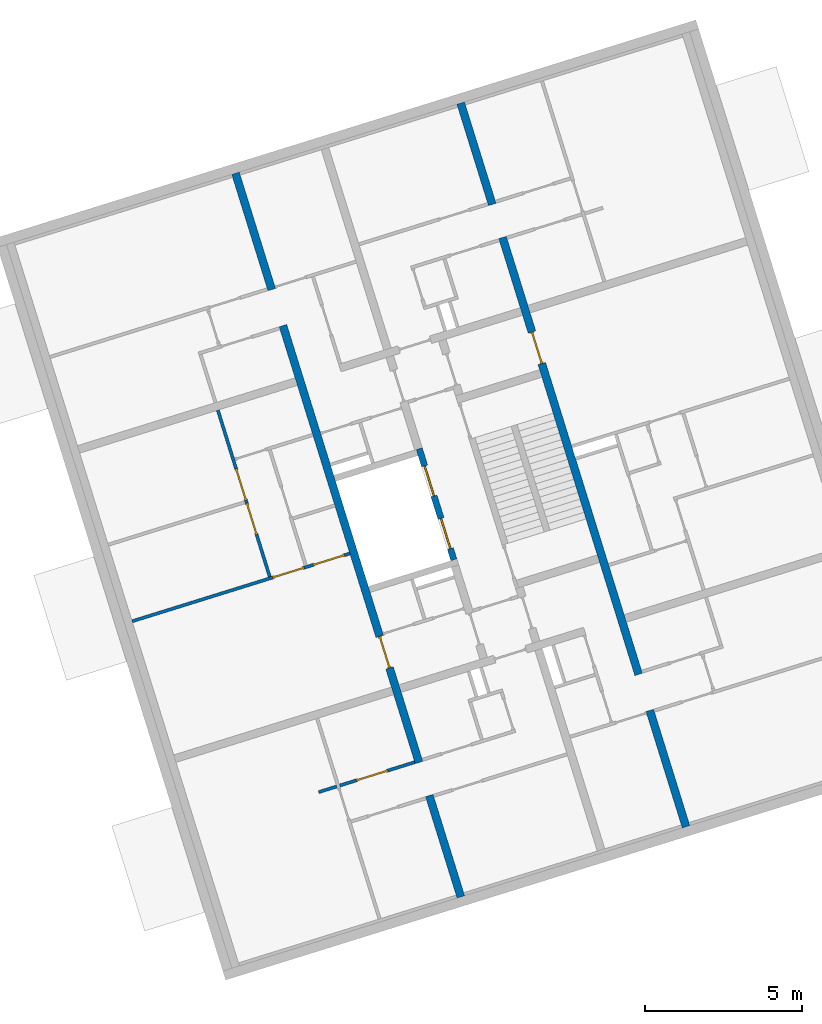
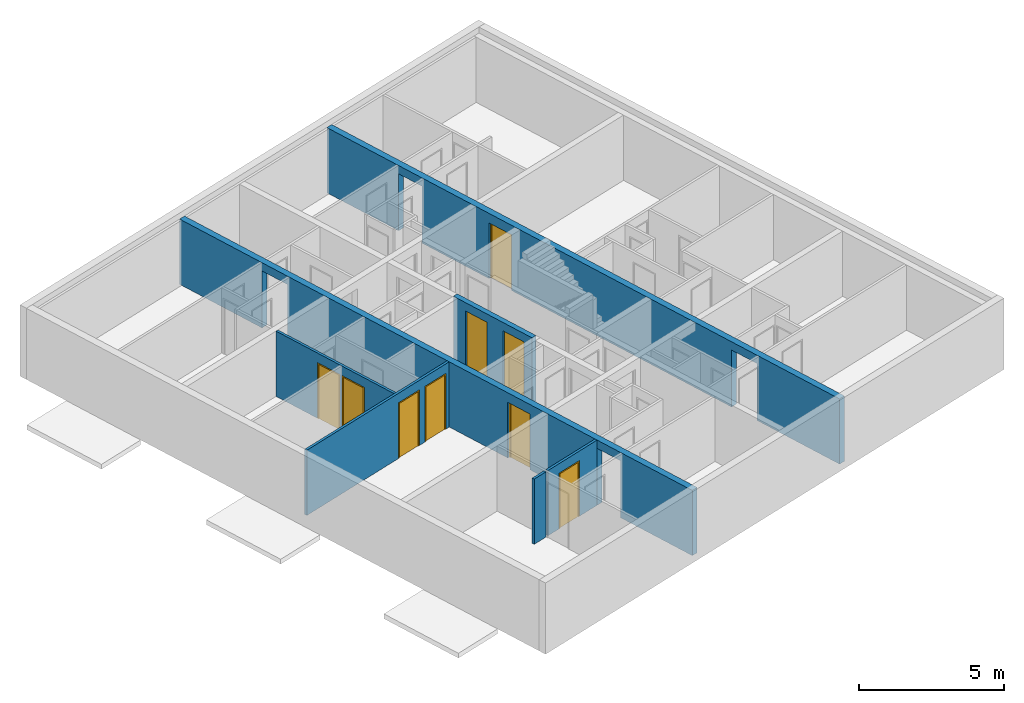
# One storey, part 7 of 8: 9 doors, 6 walls, 14 openings.
"""IFC4 building model written with IfcOpenShell, lengths in metres."""

from ifc_helpers import new_model, entity, si_unit, converted_unit, direction, frame, origin, place, context, subcontext, project, spatial, indexed_curve, outline, extrude, polygons, source, transform, mapped, material, constituent, constituent_set, type_object, type_shapes, element, fill, save


model = new_model("IFC4")

# Units and contexts
model_context = context("Model", 3, precision=1e-05, world=origin(), true_north=direction((6.12323399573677e-17, 1.0)))
body_context = subcontext(model_context, "Body", "Model", "MODEL_VIEW")
ifc_project = project(units=[si_unit("LENGTHUNIT", "METRE"), si_unit("AREAUNIT", "SQUARE_METRE"), si_unit("VOLUMEUNIT", "CUBIC_METRE"), converted_unit("PLANEANGLEUNIT", "DEGREE", entity("IfcPlaneAngleMeasure", 0.0174532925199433), si_unit("PLANEANGLEUNIT", "RADIAN"), dimensions=[0, 0, 0, 0, 0, 0, 0])], contexts=[model_context])

# Site, building, storey
site_placement = place(None, frame((13.1347999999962, 11.9886000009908, 0.0), z_axis=(0.0, 0.0, 1.0), x_axis=(0.954770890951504, 0.297342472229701, 0.0)))
site = spatial("IfcSite", under=ifc_project, at=site_placement, Name="Schiehaven", CompositionType="ELEMENT")
building_placement = place(site_placement, origin())
building = spatial("IfcBuilding", under=site, at=building_placement, Name="VORM huis", CompositionType="ELEMENT")
storey_placement = place(building_placement, frame((0.0, 0.0, 12.9)))
storey = spatial("IfcBuildingStorey", under=building, at=storey_placement, Name="04 vierde verdieping", CompositionType="ELEMENT", Elevation=12.9)

# Wall, openings, door
ifc_material_1 = material(Name="beton_gewapend_ihw", Category="Miscellaneous")
wall_type_1 = type_object("IfcWallType", Name="Basic Wall:28_WA_skelet_wand 250mm_gen", PredefinedType="STANDARD")
wall_1_placement = place(storey_placement, frame((12.5000000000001, 5.0, 0.0), z_axis=(0.0, 0.0, 1.0), x_axis=(0.0, 1.0, 0.0)))
wall_1 = element("IfcWall", 1, at=wall_1_placement, inside=storey, type_object=wall_type_1, material=ifc_material_1, Name="Constructieve wand", ObjectType="Wand", PredefinedType="NOTDEFINED", context=body_context, shape_type="Tessellation", body=[
    polygons([(8.67499999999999, -0.125, 2.34999999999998), (8.67499999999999, -0.125, 0.0), (19.0250000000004, -0.124999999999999, 0.0), (19.0250000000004, -0.124999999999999, 2.4), (20.2250000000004, -0.124999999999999, 2.4), (20.2250000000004, -0.124999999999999, 0.0), (24.1, -0.125, 0.0), (24.1, -0.125, 2.75), (7.025, -0.124999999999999, 2.75), (6.775, -0.125, 2.75), (0.0, -0.125, 2.75), (1.08286712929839e-15, -0.125, 0.0), (3.37500000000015, -0.124999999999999, 0.0), (3.37500000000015, -0.124999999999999, 2.4), (4.47500000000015, -0.125, 2.4), (4.47500000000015, -0.125, 0.0), (6.775, -0.125, 0.0), (7.025, -0.124999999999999, 0.0), (7.62499999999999, -0.124999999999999, 0.0), (7.62499999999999, -0.124999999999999, 2.34999999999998), (19.0250000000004, 0.125, 0.0), (8.67499999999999, 0.125, 0.0), (8.67499999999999, 0.125, 2.34999999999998), (7.62499999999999, 0.125, 2.34999999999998), (7.62499999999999, 0.125, 0.0), (4.47500000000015, 0.124999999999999, 0.0), (4.47500000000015, 0.124999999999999, 2.4), (3.37500000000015, 0.125000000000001, 2.4), (3.37500000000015, 0.125000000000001, 0.0), (1.08286712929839e-15, 0.125, 0.0), (0.0, 0.125, 2.75), (24.1, 0.124999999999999, 2.75), (24.1, 0.124999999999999, 0.0), (20.2250000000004, 0.125, 0.0), (20.2250000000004, 0.125, 2.4), (19.0250000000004, 0.125, 2.4)], [[[1, 2, 3, 4, 5, 6, 7, 8, 9, 10, 11, 12, 13, 14, 15, 16, 17, 18, 19, 20]], [[21, 22, 23, 24, 25, 26, 27, 28, 29, 30, 31, 32, 33, 34, 35, 36]], [[12, 30, 29, 13]], [[8, 7, 33, 32]], [[11, 10, 9, 8, 32, 31]], [[12, 11, 31, 30]], [[14, 28, 27, 15]], [[28, 14, 13, 29]], [[15, 27, 26, 16]], [[4, 36, 35, 5]], [[36, 4, 3, 21]], [[5, 35, 34, 6]], [[25, 24, 20, 19]], [[23, 22, 2, 1]], [[24, 23, 1, 20]], [[19, 18, 17, 16, 26, 25]], [[3, 2, 22, 21]], [[33, 7, 6, 34]]], closed=True),
])
opening_1_placement = place(wall_1_placement, origin())
element("IfcOpeningElement", 2, at=opening_1_placement, cuts=wall_1, Name="Constructieve wand", PredefinedType="OPENING", context=body_context, shape_type="SweptSolid", body=[
    extrude(outline(indexed_curve([(-1.2, -0.550000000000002), (1.2, -0.550000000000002), (1.2, 0.550000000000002), (-1.2, 0.550000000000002), (-1.2, -0.550000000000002)], self_intersect=False)), frame((3.92500000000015, -0.125, 1.2), z_axis=(0.0, 1.0, 0.0), x_axis=(0.0, 0.0, -1.0)), (0.0, 0.0, 1.0), 0.249999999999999),
])
opening_2_placement = place(wall_1_placement, origin())
element("IfcOpeningElement", 3, at=opening_2_placement, cuts=wall_1, Name="Constructieve wand", PredefinedType="OPENING", context=body_context, shape_type="SweptSolid", body=[
    extrude(outline(indexed_curve([(-1.2, -0.599999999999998), (1.2, -0.599999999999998), (1.2, 0.599999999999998), (-1.2, 0.599999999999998), (-1.2, -0.599999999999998)], self_intersect=False)), frame((19.6250000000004, -0.124999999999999, 1.2), z_axis=(0.0, 1.0, 0.0), x_axis=(0.0, 0.0, -1.0)), (0.0, 0.0, 1.0), 0.249999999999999),
])
opening_3_placement = place(wall_1_placement, frame((8.67499999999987, 0.124999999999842, 0.0)))
opening_3 = element("IfcOpeningElement", 4, at=opening_3_placement, cuts=wall_1, Name="Binnendeur", PredefinedType="OPENING", context=body_context, shape_type="SweptSolid", body=[
    extrude(outline(indexed_curve([(2.34999999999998, 1.05), (0.0, 1.05), (0.0, 1.08286712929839e-15), (2.34999999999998, 1.08286712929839e-15), (2.34999999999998, 1.05)], self_intersect=False)), frame((0.0, 0.0, 0.0), z_axis=(0.0, -1.0, 0.0), x_axis=(0.0, 0.0, 1.0)), (0.0, 0.0, 1.0), 0.25),
])
ifc_material_2 = material(Name="PD_a_binnenwandopeningen", Category="Miscellaneous")
ifc_constituent_1 = constituent(ifc_material_2, Name="PD_a_binnenwandopeningen", Category="Miscellaneous")
ifc_material_3 = material(Name="metaal_aluminium_ntb", Category="Miscellaneous")
ifc_constituent_2 = constituent(ifc_material_3, Name="metaal_aluminium_ntb", Category="Miscellaneous")
ifc_constituent_set_1 = constituent_set(constituents=[ifc_constituent_1, ifc_constituent_2])
door_type_1 = type_object("IfcDoorType", Name="32_DO_binnendeur enkel:binnendeur", OperationType="REVOLVING", PredefinedType="DOOR")
shared_shape_1 = source(origin(), body_context, "Body", "SweptSolid", [
    extrude(outline(indexed_curve([(-1.16249999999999, -0.525000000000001), (1.18749999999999, -0.525), (1.18749999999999, 0.525000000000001), (-1.16249999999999, 0.525000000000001), (-1.16249999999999, 0.475), (1.13749999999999, 0.475), (1.13749999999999, -0.475), (-1.16249999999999, -0.475), (-1.16249999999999, -0.525000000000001)], self_intersect=False)), frame((0.525000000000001, 0.0749999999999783, 1.16249999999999), z_axis=(0.0, 1.0, 0.0), x_axis=(0.0, 0.0, 1.0)), (0.0, 0.0, 1.0), 0.1),
    extrude(outline(indexed_curve([(-0.025, -0.475), (0.025, -0.475), (0.025, 0.475), (-0.025, 0.475), (-0.025, -0.475)], self_intersect=False)), frame((0.525000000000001, 0.12499999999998, 0.0), z_axis=(0.0, 0.0, 1.0), x_axis=(0.0, 1.0, 0.0)), (0.0, 0.0, 1.0), 2.29999999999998),
])
door_1_placement = place(opening_3_placement, frame((0.0, 0.0, 0.0), z_axis=(0.0, 0.0, 1.0), x_axis=(-1.0, 0.0, 0.0)))
door_1 = element("IfcDoor", 5, at=door_1_placement, inside=storey, type_object=door_type_1, material=ifc_constituent_set_1, Name="Binnendeur", ObjectType="Deur", OperationType="REVOLVING", OverallHeight=2.34999999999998, OverallWidth=1.05, PredefinedType="DOOR", context=body_context, shape_type="MappedRepresentation", body=[
    mapped(shared_shape_1, transform((0.0, 0.0, 0.0), scale=1.0)),
])
fill(opening_3, door_1)

wall_2_placement = place(storey_placement, frame((20.0, 29.0999999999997, 0.0), z_axis=(0.0, 0.0, 1.0), x_axis=(0.0, -1.0, 0.0)))
wall_2 = element("IfcWall", 6, at=wall_2_placement, inside=storey, type_object=wall_type_1, material=ifc_material_1, Name="Constructieve wand", ObjectType="Wand", PredefinedType="NOTDEFINED", context=body_context, shape_type="Tessellation", body=[
    polygons([(8.67499999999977, -0.124999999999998, 2.34999999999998), (8.67499999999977, -0.124999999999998, 0.0), (19.0249999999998, -0.124999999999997, 0.0), (19.0249999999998, -0.124999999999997, 2.4), (20.2249999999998, -0.125000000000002, 2.4), (20.2249999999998, -0.124999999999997, 0.0), (24.1, -0.124999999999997, 0.0), (24.1, -0.124999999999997, 2.75), (7.025, -0.124999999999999, 2.75), (6.775, -0.125, 2.75), (4.33146851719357e-15, -0.124999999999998, 2.75), (4.33146851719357e-15, -0.124999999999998, 0.0), (3.37499999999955, -0.124999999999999, 0.0), (3.37499999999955, -0.124999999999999, 2.4), (4.47499999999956, -0.124999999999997, 2.4), (4.47499999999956, -0.124999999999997, 0.0), (6.775, -0.125, 0.0), (7.025, -0.124999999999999, 0.0), (7.62499999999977, -0.124999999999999, 0.0), (7.62499999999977, -0.124999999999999, 2.34999999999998), (19.0249999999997, 0.125000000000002, 0.0), (8.67499999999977, 0.125000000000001, 0.0), (8.67499999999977, 0.125000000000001, 2.34999999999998), (7.62499999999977, 0.125, 2.34999999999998), (7.62499999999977, 0.125, 0.0), (4.47499999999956, 0.125000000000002, 0.0), (4.47499999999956, 0.125000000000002, 2.4), (3.37499999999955, 0.125, 2.4), (3.37499999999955, 0.125, 0.0), (0.0, 0.125000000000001, 0.0), (0.0, 0.125000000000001, 2.75), (24.1, 0.125000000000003, 2.75), (24.1, 0.125000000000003, 0.0), (20.2249999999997, 0.125000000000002, 0.0), (20.2249999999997, 0.125000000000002, 2.4), (19.0249999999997, 0.125000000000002, 2.4)], [[[1, 2, 3, 4, 5, 6, 7, 8, 9, 10, 11, 12, 13, 14, 15, 16, 17, 18, 19, 20]], [[21, 22, 23, 24, 25, 26, 27, 28, 29, 30, 31, 32, 33, 34, 35, 36]], [[12, 30, 29, 13]], [[8, 7, 33, 32]], [[11, 10, 9, 8, 32, 31]], [[12, 11, 31, 30]], [[14, 28, 27, 15]], [[28, 14, 13, 29]], [[15, 27, 26, 16]], [[4, 36, 35, 5]], [[36, 4, 3, 21]], [[5, 35, 34, 6]], [[25, 24, 20, 19]], [[23, 22, 2, 1]], [[24, 23, 1, 20]], [[19, 18, 17, 16, 26, 25]], [[3, 2, 22, 21]], [[33, 7, 6, 34]]], closed=True),
])
opening_4_placement = place(wall_2_placement, origin())
element("IfcOpeningElement", 7, at=opening_4_placement, cuts=wall_2, Name="Constructieve wand", PredefinedType="OPENING", context=body_context, shape_type="SweptSolid", body=[
    extrude(outline(indexed_curve([(-1.2, -0.550000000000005), (1.2, -0.550000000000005), (1.2, 0.550000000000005), (-1.2, 0.550000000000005), (-1.2, -0.550000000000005)], self_intersect=False)), frame((3.92499999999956, -0.125000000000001, 1.2), z_axis=(0.0, 1.0, 0.0), x_axis=(0.0, 0.0, -1.0)), (0.0, 0.0, 1.0), 0.250000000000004),
])
opening_5_placement = place(wall_2_placement, origin())
element("IfcOpeningElement", 8, at=opening_5_placement, cuts=wall_2, Name="Constructieve wand", PredefinedType="OPENING", context=body_context, shape_type="SweptSolid", body=[
    extrude(outline(indexed_curve([(-1.2, -0.599999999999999), (1.2, -0.599999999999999), (1.2, 0.599999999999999), (-1.2, 0.599999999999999), (-1.2, -0.599999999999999)], self_intersect=False)), frame((19.6249999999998, -0.125000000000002, 1.2), z_axis=(0.0, 1.0, 0.0), x_axis=(0.0, 0.0, -1.0)), (0.0, 0.0, 1.0), 0.250000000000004),
])
opening_6_placement = place(wall_2_placement, frame((8.67499999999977, 0.125000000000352, 0.0)))
opening_6 = element("IfcOpeningElement", 9, at=opening_6_placement, cuts=wall_2, Name="Binnendeur", PredefinedType="OPENING", context=body_context, shape_type="SweptSolid", body=[
    extrude(outline(indexed_curve([(2.34999999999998, 1.05), (0.0, 1.05), (0.0, -7.44152288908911e-29), (2.34999999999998, -7.44152288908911e-29), (2.34999999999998, 1.05)], self_intersect=False)), frame((0.0, 0.0, 0.0), z_axis=(0.0, -1.0, 0.0), x_axis=(0.0, 0.0, 1.0)), (0.0, 0.0, 1.0), 0.25),
])
ifc_constituent_3 = constituent(ifc_material_2, Name="PD_a_binnenwandopeningen", Category="Miscellaneous")
ifc_constituent_4 = constituent(ifc_material_3, Name="metaal_aluminium_ntb", Category="Miscellaneous")
ifc_constituent_set_2 = constituent_set(constituents=[ifc_constituent_3, ifc_constituent_4])
door_2_placement = place(opening_6_placement, frame((0.0, 0.0, 0.0), z_axis=(0.0, 0.0, 1.0), x_axis=(-1.0, 0.0, 0.0)))
door_2 = element("IfcDoor", 10, at=door_2_placement, inside=storey, type_object=door_type_1, material=ifc_constituent_set_2, Name="Binnendeur", ObjectType="Deur", OperationType="REVOLVING", OverallHeight=2.34999999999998, OverallWidth=1.05, PredefinedType="DOOR", context=body_context, shape_type="MappedRepresentation", body=[
    mapped(shared_shape_1, transform((0.0, 0.0, 0.0), scale=1.0)),
])
fill(opening_6, door_2)

# Wall, openings, doors
ifc_material_4 = material(Name="beton_gewapend_prefab-element", Category="Miscellaneous")
wall_type_2 = type_object("IfcWallType", Name="Basic Wall:28_WA_skelet_wand 200mm_gen", PredefinedType="STANDARD")
wall_3_placement = place(storey_placement, frame((15.4750000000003, 15.3, 0.0), z_axis=(0.0, 0.0, 1.0), x_axis=(0.0, 1.0, 0.0)))
wall_3 = element("IfcWall", 11, at=wall_3_placement, inside=storey, type_object=wall_type_2, material=ifc_material_4, Name="Constructieve wand", ObjectType="Wand", PredefinedType="NOTDEFINED", context=body_context, shape_type="Tessellation", body=[
    polygons([(3.7, -0.0999999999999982, 2.75), (2.16573425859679e-15, -0.0999999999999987, 2.75), (2.16573425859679e-15, -0.0999999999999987, 0.0), (0.374999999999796, -0.0999999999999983, 0.0), (0.374999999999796, -0.0999999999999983, 2.39999999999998), (1.3749999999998, -0.0999999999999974, 2.39999999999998), (1.3749999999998, -0.0999999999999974, 0.0), (2.1249999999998, -0.100000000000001, 0.0), (2.1249999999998, -0.100000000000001, 2.39999999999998), (3.1249999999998, -0.1, 2.39999999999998), (3.1249999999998, -0.1, 0.0), (3.7, -0.0999999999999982, 0.0), (2.16573425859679e-15, 0.100000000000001, 2.75), (3.5, 0.100000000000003, 2.75), (3.7, 0.0999999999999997, 2.75), (3.7, 0.0999999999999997, 0.0), (3.5, 0.100000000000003, 0.0), (3.1249999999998, 0.100000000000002, 0.0), (3.1249999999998, 0.100000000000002, 2.39999999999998), (2.1249999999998, 0.100000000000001, 2.39999999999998), (2.1249999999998, 0.100000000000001, 0.0), (1.3749999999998, 0.100000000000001, 0.0), (1.3749999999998, 0.100000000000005, 2.39999999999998), (0.3749999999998, 0.100000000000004, 2.39999999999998), (0.3749999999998, 0.100000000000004, 0.0), (0.0, 0.100000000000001, 0.0)], [[[1, 2, 3, 4, 5, 6, 7, 8, 9, 10, 11, 12]], [[13, 14, 15, 16, 17, 18, 19, 20, 21, 22, 23, 24, 25, 26]], [[4, 3, 26, 25]], [[2, 1, 15, 14, 13]], [[6, 23, 22, 7]], [[24, 5, 4, 25]], [[23, 6, 5, 24]], [[10, 19, 18, 11]], [[20, 9, 8, 21]], [[19, 10, 9, 20]], [[1, 12, 16, 15]], [[3, 2, 13, 26]], [[7, 22, 21, 8]], [[16, 12, 11, 18, 17]]], closed=True),
])
opening_7_placement = place(wall_3_placement, frame((-15.3, 15.4750000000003, 0.0), z_axis=(0.0, 0.0, 1.0), x_axis=(0.0, -1.0, 0.0)))
opening_7 = element("IfcOpeningElement", 12, at=opening_7_placement, cuts=wall_3, Name="Brandweerlift", PredefinedType="OPENING", context=body_context, shape_type="SweptSolid", body=[
    extrude(outline(indexed_curve([(-1.19999999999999, -0.499999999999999), (1.19999999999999, -0.499999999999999), (1.19999999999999, 0.500000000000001), (-1.19999999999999, 0.500000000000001), (-1.19999999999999, -0.499999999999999)], self_intersect=False)), frame((15.7436720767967, 16.1749999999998, 1.19999999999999), z_axis=(-1.0, 0.0, 0.0), x_axis=(0.0, 0.0, -1.0)), (0.0, 0.0, 1.0), 0.756310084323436),
])
opening_8_placement = place(wall_3_placement, frame((-15.3, 15.4750000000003, 0.0), z_axis=(0.0, 0.0, 1.0), x_axis=(0.0, -1.0, 0.0)))
opening_8 = element("IfcOpeningElement", 13, at=opening_8_placement, cuts=wall_3, Name="Brandweerlift", PredefinedType="OPENING", context=body_context, shape_type="SweptSolid", body=[
    extrude(outline(indexed_curve([(-1.19999999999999, -0.500000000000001), (1.19999999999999, -0.500000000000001), (1.19999999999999, 0.499999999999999), (-1.19999999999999, 0.499999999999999), (-1.19999999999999, -0.500000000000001)], self_intersect=False)), frame((15.7436720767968, 17.9249999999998, 1.19999999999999), z_axis=(-1.0, 0.0, 0.0), x_axis=(0.0, 0.0, -1.0)), (0.0, 0.0, 1.0), 0.756310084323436),
])
door_type_2 = type_object("IfcDoorType", Name="66_WI_liftdeur:brandweerlift - tweezijdig toegankelijk", OperationType="NOTDEFINED", PredefinedType="DOOR", material=ifc_material_3)
shared_shape_2 = source(origin(), body_context, "Body", "SweptSolid", [
    extrude(outline(indexed_curve([(-0.0250000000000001, -0.25), (0.0249999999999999, -0.25), (0.0250000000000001, 0.25), (-0.0249999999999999, 0.25), (-0.0250000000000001, -0.25)], self_intersect=False)), frame((0.250000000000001, 0.487638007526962, 0.0), z_axis=(0.0, 0.0, 1.0), x_axis=(0.0, 1.0, 0.0)), (0.0, 0.0, 1.0), 2.39999999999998),
    extrude(outline(indexed_curve([(-0.0250000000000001, -0.25), (0.0249999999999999, -0.25), (0.0250000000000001, 0.25), (-0.0249999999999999, 0.25), (-0.0250000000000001, -0.25)], self_intersect=False)), frame((0.750000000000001, 0.48763800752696, 0.0), z_axis=(0.0, 0.0, 1.0), x_axis=(0.0, 1.0, 0.0)), (0.0, 0.0, 1.0), 2.39999999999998),
])
type_shapes(door_type_2, [shared_shape_2])
door_3_placement = place(opening_7_placement, frame((14.9873619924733, 16.6749999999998, 0.0), z_axis=(0.0, 0.0, 1.0), x_axis=(0.0, -1.0, 0.0)))
door_3 = element("IfcDoor", 14, at=door_3_placement, inside=storey, type_object=door_type_2, material=ifc_material_3, Name="Brandweerlift", ObjectType="Transport", OperationType="NOTDEFINED", OverallHeight=2.39999999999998, OverallWidth=1.0, PredefinedType="DOOR", context=body_context, shape_type="MappedRepresentation", body=[
    mapped(shared_shape_2, transform((0.0, 0.0, 0.0), scale=1.0)),
])
fill(opening_7, door_3)
door_4_placement = place(opening_8_placement, frame((14.9873619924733, 18.4249999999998, 0.0), z_axis=(0.0, 0.0, 1.0), x_axis=(0.0, -1.0, 0.0)))
door_4 = element("IfcDoor", 15, at=door_4_placement, inside=storey, type_object=door_type_2, material=ifc_material_3, Name="Brandweerlift", ObjectType="Transport", OperationType="NOTDEFINED", OverallHeight=2.39999999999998, OverallWidth=1.0, PredefinedType="DOOR", context=body_context, shape_type="MappedRepresentation", body=[
    mapped(shared_shape_2, transform((0.0, 0.0, 0.0), scale=1.0)),
])
fill(opening_8, door_4)

# Wall, openings, door
ifc_material_5 = material(Name="ntb_ntb_ntb", Category="Miscellaneous")
wall_type_3 = type_object("IfcWallType", Name="Basic Wall:22_WA_afbouw_binnenwand 100mm_gen", PredefinedType="STANDARD")
wall_4_placement = place(storey_placement, frame((12.3750000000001, 9.52499999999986, 0.0), z_axis=(0.0, 0.0, 1.0), x_axis=(-1.0, 0.0, 0.0)))
wall_4 = element("IfcWall", 16, at=wall_4_placement, inside=storey, type_object=wall_type_3, material=ifc_material_5, Name="Binnenwand", ObjectType="Wand", PredefinedType="NOTDEFINED", context=body_context, shape_type="Tessellation", body=[
    polygons([(-2.22976765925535e-15, -0.0500000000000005, 2.75), (-2.22976765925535e-15, -0.0500000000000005, 0.0), (0.899999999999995, -0.0500000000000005, 0.0), (0.899999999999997, -0.0500000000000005, 2.34999999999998), (1.95, -0.0500000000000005, 2.34999999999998), (1.95, -0.0500000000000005, 0.0), (2.50000000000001, -0.0500000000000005, 0.0), (2.50000000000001, -0.0500000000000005, 2.75), (-2.09904175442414e-15, 0.0499999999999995, 0.0), (0.899999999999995, 0.0499999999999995, 0.0), (-2.09904175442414e-15, 0.0499999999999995, 2.75), (1.95, 0.0499999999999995, 2.34999999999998), (1.95, 0.0499999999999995, 0.0), (0.899999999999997, 0.0499999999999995, 2.34999999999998), (2.50000000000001, 0.0499999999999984, 0.0), (2.50000000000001, 0.0499999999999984, 2.75)], [[[1, 2, 3, 4, 5, 6, 7, 8]], [[2, 9, 10, 3]], [[2, 1, 11, 9]], [[6, 5, 12, 13]], [[4, 3, 10, 14]], [[5, 4, 14, 12]], [[8, 7, 15, 16]], [[11, 1, 8, 16]], [[6, 13, 15, 7]], [[9, 11, 16, 15, 13, 12, 14, 10]]], closed=True),
    polygons([(3.2, 0.0500000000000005, 2.75), (3.2, 0.0500000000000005, 0.0), (2.60000000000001, 0.0499999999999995, 0.0), (2.60000000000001, 0.0499999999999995, 2.75), (3.2, -0.0499999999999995, 2.75), (3.2, -0.0499999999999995, 0.0), (2.60000000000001, -0.0500000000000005, 2.75), (2.60000000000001, -0.0500000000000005, 0.0)], [[[1, 2, 3, 4]], [[5, 6, 2, 1]], [[5, 1, 4, 7]], [[8, 7, 4, 3]], [[2, 6, 8, 3]], [[6, 5, 7, 8]]], closed=True),
])
opening_9_placement = place(storey_placement, frame((12.3750000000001, 9.52499999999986, 0.0), z_axis=(0.0, 0.0, 1.0), x_axis=(-1.0, 0.0, 0.0)))
element("IfcOpeningElement", 17, at=opening_9_placement, cuts=wall_4, Name="Binnenwand:1", PredefinedType="OPENING", context=body_context, shape_type="SweptSolid", body=[
    extrude(outline(indexed_curve([(-1.375, -0.0499999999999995), (1.375, -0.0499999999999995), (1.375, 0.0500000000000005), (-1.375, 0.0500000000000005), (-1.375, -0.0499999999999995)], self_intersect=False)), frame((2.60000000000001, 0.0, 1.375), z_axis=(-1.0, 0.0, 0.0), x_axis=(0.0, 0.0, 1.0)), (0.0, 0.0, 1.0), 0.100000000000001),
])
opening_10_placement = place(wall_4_placement, frame((0.899999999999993, -0.0500000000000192, 0.0)))
opening_10 = element("IfcOpeningElement", 18, at=opening_10_placement, cuts=wall_4, Name="Binnendeur", PredefinedType="OPENING", context=body_context, shape_type="SweptSolid", body=[
    extrude(outline(indexed_curve([(2.34999999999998, 1.05), (0.0, 1.05), (0.0, 1.35358391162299e-15), (2.34999999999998, 1.35358391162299e-15), (2.34999999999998, 1.05)], self_intersect=False)), frame((0.0, 0.0, 0.0), z_axis=(0.0, 1.0, 0.0), x_axis=(0.0, 0.0, 1.0)), (0.0, 0.0, 1.0), 0.1),
])
ifc_constituent_5 = constituent(ifc_material_2, Name="PD_a_binnenwandopeningen", Category="Miscellaneous")
ifc_constituent_6 = constituent(ifc_material_3, Name="metaal_aluminium_ntb", Category="Miscellaneous")
ifc_constituent_set_3 = constituent_set(constituents=[ifc_constituent_5, ifc_constituent_6])
shared_shape_3 = source(origin(), body_context, "Body", "SweptSolid", [
    extrude(outline(indexed_curve([(-1.16249999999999, -0.525000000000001), (1.18749999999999, -0.525), (1.18749999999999, 0.525), (-1.16249999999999, 0.525), (-1.16249999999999, 0.475), (1.13749999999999, 0.475), (1.13749999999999, -0.475), (-1.16249999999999, -0.475), (-1.16249999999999, -0.525000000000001)], self_intersect=False)), frame((0.525000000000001, 0.0, 1.16249999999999), z_axis=(0.0, 1.0, 0.0), x_axis=(0.0, 0.0, 1.0)), (0.0, 0.0, 1.0), 0.1),
    extrude(outline(indexed_curve([(-0.025, -0.475), (0.025, -0.475), (0.025, 0.475), (-0.025, 0.475), (-0.025, -0.475)], self_intersect=False)), frame((0.525000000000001, 0.0499999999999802, 0.0), z_axis=(0.0, 0.0, 1.0), x_axis=(0.0, 1.0, 0.0)), (0.0, 0.0, 1.0), 2.29999999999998),
])
type_shapes(door_type_1, [shared_shape_3])
door_5_placement = place(opening_10_placement, origin())
door_5 = element("IfcDoor", 19, at=door_5_placement, inside=storey, type_object=door_type_1, material=ifc_constituent_set_3, Name="Binnendeur", ObjectType="Deur", OperationType="REVOLVING", OverallHeight=2.34999999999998, OverallWidth=1.05, PredefinedType="DOOR", context=body_context, shape_type="MappedRepresentation", body=[
    mapped(shared_shape_3, transform((0.0, 0.0, 0.0), scale=1.0)),
])
fill(opening_10, door_5)

# Wall, openings, doors
wall_5_placement = place(storey_placement, frame((12.3771642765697, 16.475, 0.0), z_axis=(0.0, 0.0, 1.0), x_axis=(-1.0, 0.0, 0.0)))
wall_5 = element("IfcWall", 20, at=wall_5_placement, inside=storey, type_object=wall_type_3, material=ifc_material_5, Name="Binnenwand", ObjectType="Wand", PredefinedType="NOTDEFINED", context=body_context, shape_type="Tessellation", body=[
    polygons([(2.66089944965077e-16, -0.0500000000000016, 0.0), (0.176082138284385, -0.0499999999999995, 0.0), (0.176082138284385, -0.0499999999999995, 2.34999999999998), (1.22608213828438, -0.0499999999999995, 2.34999999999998), (1.22608213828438, -0.0499999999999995, 0.0), (1.40216427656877, -0.0499999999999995, 0.0), (1.50216427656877, -0.0499999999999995, 0.0), (1.52716427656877, -0.0499999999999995, 0.0), (1.52716427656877, -0.0499999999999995, 2.34999999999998), (2.57716427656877, -0.0499999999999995, 2.34999999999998), (2.57716427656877, -0.0499999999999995, 0.0), (2.60216427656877, -0.0500000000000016, 0.0), (2.70216427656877, -0.0499999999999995, 0.0), (7.25216427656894, -0.0500000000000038, 0.0), (7.25216427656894, -0.0500000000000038, 2.75), (2.70216427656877, -0.0499999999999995, 2.75), (2.60216427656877, -0.0500000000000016, 2.75), (1.50216427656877, -0.0499999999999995, 2.75), (1.40216427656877, -0.0499999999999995, 2.75), (2.66089944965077e-16, -0.0500000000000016, 2.75), (0.176082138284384, 0.0500000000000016, 2.34999999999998), (0.176082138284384, 0.0500000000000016, 0.0), (-3.90810526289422e-16, 0.0499999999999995, 0.0), (-3.90810526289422e-16, 0.0499999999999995, 2.75), (7.25216427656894, 0.0499999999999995, 2.75), (7.25216427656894, 0.0499999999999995, 0.0), (2.57716427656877, 0.0500000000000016, 0.0), (2.57716427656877, 0.0500000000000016, 2.34999999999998), (1.52716427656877, 0.0500000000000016, 2.34999999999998), (1.52716427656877, 0.0500000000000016, 0.0), (1.22608213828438, 0.0500000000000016, 0.0), (1.22608213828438, 0.0500000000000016, 2.34999999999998)], [[[1, 2, 3, 4, 5, 6, 7, 8, 9, 10, 11, 12, 13, 14, 15, 16, 17, 18, 19, 20]], [[21, 22, 23, 24, 25, 26, 27, 28, 29, 30, 31, 32]], [[23, 22, 2, 1]], [[15, 14, 26, 25]], [[20, 19, 18, 17, 16, 15, 25, 24]], [[1, 20, 24, 23]], [[11, 10, 28, 27]], [[9, 8, 30, 29]], [[10, 9, 29, 28]], [[5, 4, 32, 31]], [[3, 2, 22, 21]], [[4, 3, 21, 32]], [[31, 30, 8, 7, 6, 5]], [[27, 26, 14, 13, 12, 11]]], closed=True),
])
opening_11_placement = place(wall_5_placement, frame((1.52716427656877, -0.0500000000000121, 0.0)))
opening_11 = element("IfcOpeningElement", 21, at=opening_11_placement, cuts=wall_5, Name="Binnendeur", PredefinedType="OPENING", context=body_context, shape_type="SweptSolid", body=[
    extrude(outline(indexed_curve([(2.34999999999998, 1.05), (0.0, 1.05), (0.0, 1.35358391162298e-15), (2.34999999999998, 1.35358391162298e-15), (2.34999999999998, 1.05)], self_intersect=False)), frame((0.0, 0.0, 0.0), z_axis=(0.0, 1.0, 0.0), x_axis=(0.0, 0.0, 1.0)), (0.0, 0.0, 1.0), 0.1),
])
opening_12_placement = place(wall_5_placement, frame((0.176082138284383, -0.0500000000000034, 0.0)))
opening_12 = element("IfcOpeningElement", 22, at=opening_12_placement, cuts=wall_5, Name="Binnendeur", PredefinedType="OPENING", context=body_context, shape_type="SweptSolid", body=[
    extrude(outline(indexed_curve([(2.34999999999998, 1.05), (0.0, 1.05), (0.0, 1.35358391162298e-15), (2.34999999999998, 1.35358391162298e-15), (2.34999999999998, 1.05)], self_intersect=False)), frame((0.0, 0.0, 0.0), z_axis=(0.0, 1.0, 0.0), x_axis=(0.0, 0.0, 1.0)), (0.0, 0.0, 1.0), 0.1),
])
ifc_constituent_7 = constituent(ifc_material_2, Name="PD_a_binnenwandopeningen", Category="Miscellaneous")
ifc_constituent_8 = constituent(ifc_material_3, Name="metaal_aluminium_ntb", Category="Miscellaneous")
ifc_constituent_set_4 = constituent_set(constituents=[ifc_constituent_7, ifc_constituent_8])
door_6_placement = place(opening_11_placement, origin())
door_6 = element("IfcDoor", 23, at=door_6_placement, inside=storey, type_object=door_type_1, material=ifc_constituent_set_4, Name="Binnendeur", ObjectType="Deur", OperationType="REVOLVING", OverallHeight=2.34999999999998, OverallWidth=1.05, PredefinedType="DOOR", context=body_context, shape_type="MappedRepresentation", body=[
    mapped(shared_shape_3, transform((0.0, 0.0, 0.0), scale=1.0)),
])
fill(opening_11, door_6)
ifc_constituent_9 = constituent(ifc_material_2, Name="PD_a_binnenwandopeningen", Category="Miscellaneous")
ifc_constituent_10 = constituent(ifc_material_3, Name="metaal_aluminium_ntb", Category="Miscellaneous")
ifc_constituent_set_5 = constituent_set(constituents=[ifc_constituent_9, ifc_constituent_10])
door_7_placement = place(opening_12_placement, origin())
door_7 = element("IfcDoor", 24, at=door_7_placement, inside=storey, type_object=door_type_1, material=ifc_constituent_set_5, Name="Binnendeur", ObjectType="Deur", OperationType="REVOLVING", OverallHeight=2.34999999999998, OverallWidth=1.05, PredefinedType="DOOR", context=body_context, shape_type="MappedRepresentation", body=[
    mapped(shared_shape_3, transform((0.0, 0.0, 0.0), scale=1.0)),
])
fill(opening_12, door_7)

wall_6_placement = place(storey_placement, frame((9.72500000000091, 22.0750000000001, 0.0), z_axis=(0.0, 0.0, 1.0), x_axis=(0.0, -1.0, 0.0)))
wall_6 = element("IfcWall", 25, at=wall_6_placement, inside=storey, type_object=wall_type_3, material=ifc_material_5, Name="Binnenwand", ObjectType="Wand", PredefinedType="NOTDEFINED", context=body_context, shape_type="Tessellation", body=[
    polygons([(3.00000000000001, -0.049999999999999, 0.0), (3.10000000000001, -0.0499999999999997, 0.0), (3.10000000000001, -0.0499999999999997, 2.34999999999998), (4.15000000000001, -0.0499999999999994, 2.34999999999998), (4.15000000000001, -0.0499999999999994, 0.0), (5.55000000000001, -0.0499999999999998, 0.0), (5.55000000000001, -0.0499999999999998, 2.75), (3.10000000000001, -0.0499999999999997, 2.75), (3.00000000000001, -0.049999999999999, 2.75), (0.0, -0.0499999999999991, 2.75), (0.0, -0.0499999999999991, 0.0), (1.95000000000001, -0.0499999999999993, 0.0), (1.95000000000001, -0.0499999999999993, 2.34999999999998), (3.00000000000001, -0.049999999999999, 2.34999999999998), (3.10000000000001, 0.0500000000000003, 2.34999999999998), (3.10000000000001, 0.0500000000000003, 0.0), (3.00000000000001, 0.0499999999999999, 0.0), (3.00000000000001, 0.0499999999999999, 2.34999999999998), (1.95000000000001, 0.0499999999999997, 2.34999999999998), (1.95000000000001, 0.0499999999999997, 0.0), (1.70000000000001, 0.0500000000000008, 0.0), (1.60000000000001, 0.0500000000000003, 0.0), (0.0, 0.0499999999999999, 0.0), (0.0, 0.0499999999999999, 2.75), (1.60000000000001, 0.0500000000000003, 2.75), (1.70000000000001, 0.0500000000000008, 2.75), (5.55000000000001, 0.0500000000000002, 2.75), (5.55000000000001, 0.0500000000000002, 0.0), (4.15000000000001, 0.0500000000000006, 0.0), (4.15000000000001, 0.0500000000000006, 2.34999999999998)], [[[1, 2, 3, 4, 5, 6, 7, 8, 9, 10, 11, 12, 13, 14]], [[15, 16, 17, 18, 19, 20, 21, 22, 23, 24, 25, 26, 27, 28, 29, 30]], [[11, 23, 22, 21, 20, 12]], [[10, 9, 8, 7, 27, 26, 25, 24]], [[11, 10, 24, 23]], [[14, 18, 17, 1]], [[19, 13, 12, 20]], [[18, 14, 13, 19]], [[7, 6, 28, 27]], [[5, 4, 30, 29]], [[3, 2, 16, 15]], [[4, 3, 15, 30]], [[17, 16, 2, 1]], [[29, 28, 6, 5]]], closed=True),
])
opening_13_placement = place(wall_6_placement, frame((1.95, -0.0500000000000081, 0.0)))
opening_13 = element("IfcOpeningElement", 26, at=opening_13_placement, cuts=wall_6, Name="Binnendeur", PredefinedType="OPENING", context=body_context, shape_type="SweptSolid", body=[
    extrude(outline(indexed_curve([(2.34999999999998, 1.05), (0.0, 1.05), (0.0, 0.0), (2.34999999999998, 0.0), (2.34999999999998, 1.05)], self_intersect=False)), frame((0.0, 0.0, 0.0), z_axis=(0.0, 1.0, 0.0), x_axis=(0.0, 0.0, 1.0)), (0.0, 0.0, 1.0), 0.1),
])
opening_14_placement = place(wall_6_placement, frame((3.1, -0.0500000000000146, 0.0)))
opening_14 = element("IfcOpeningElement", 27, at=opening_14_placement, cuts=wall_6, Name="Binnendeur", PredefinedType="OPENING", context=body_context, shape_type="SweptSolid", body=[
    extrude(outline(indexed_curve([(2.34999999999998, 1.05), (0.0, 1.05), (0.0, 1.08286712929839e-15), (2.34999999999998, 1.08286712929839e-15), (2.34999999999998, 1.05)], self_intersect=False)), frame((0.0, 0.0, 0.0), z_axis=(0.0, 1.0, 0.0), x_axis=(0.0, 0.0, 1.0)), (0.0, 0.0, 1.0), 0.1),
])
ifc_constituent_11 = constituent(ifc_material_2, Name="PD_a_binnenwandopeningen", Category="Miscellaneous")
ifc_constituent_12 = constituent(ifc_material_3, Name="metaal_aluminium_ntb", Category="Miscellaneous")
ifc_constituent_set_6 = constituent_set(constituents=[ifc_constituent_11, ifc_constituent_12])
door_8_placement = place(opening_13_placement, origin())
door_8 = element("IfcDoor", 28, at=door_8_placement, inside=storey, type_object=door_type_1, material=ifc_constituent_set_6, Name="Binnendeur", ObjectType="Deur", OperationType="REVOLVING", OverallHeight=2.34999999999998, OverallWidth=1.05, PredefinedType="DOOR", context=body_context, shape_type="MappedRepresentation", body=[
    mapped(shared_shape_3, transform((0.0, 0.0, 0.0), scale=1.0)),
])
fill(opening_13, door_8)
ifc_constituent_13 = constituent(ifc_material_2, Name="PD_a_binnenwandopeningen", Category="Miscellaneous")
ifc_constituent_14 = constituent(ifc_material_3, Name="metaal_aluminium_ntb", Category="Miscellaneous")
ifc_constituent_set_7 = constituent_set(constituents=[ifc_constituent_13, ifc_constituent_14])
door_9_placement = place(opening_14_placement, origin())
door_9 = element("IfcDoor", 29, at=door_9_placement, inside=storey, type_object=door_type_1, material=ifc_constituent_set_7, Name="Binnendeur", ObjectType="Deur", OperationType="REVOLVING", OverallHeight=2.34999999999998, OverallWidth=1.05, PredefinedType="DOOR", context=body_context, shape_type="MappedRepresentation", body=[
    mapped(shared_shape_3, transform((0.0, 0.0, 0.0), scale=1.0)),
])
fill(opening_14, door_9)

save(model, "model.ifc")
